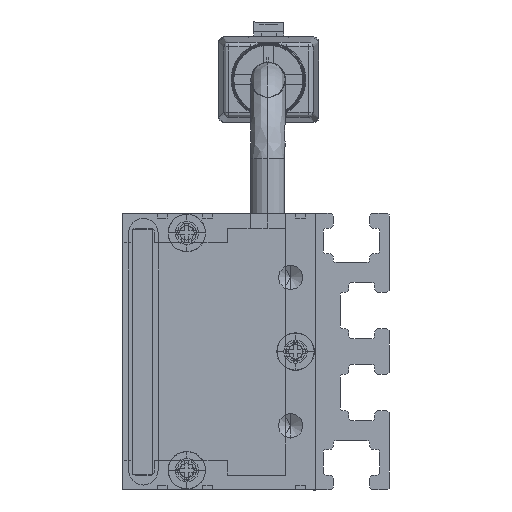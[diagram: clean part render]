
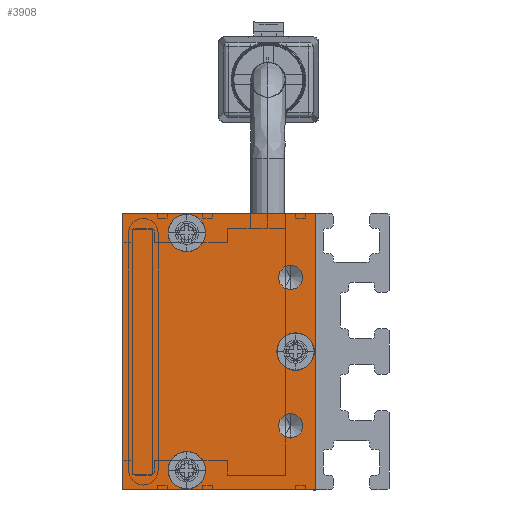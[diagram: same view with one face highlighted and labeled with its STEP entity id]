
A CAD part, left-side view. The second image highlights one B-rep face of the part: STEP entity #3908.
In plain terms, the highlighted planar face has unit normal (-1, 0, 0) as drawn and (0, 0, -1) by its records, which use the part's own axes.
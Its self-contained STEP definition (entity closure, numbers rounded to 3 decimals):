
#236 = CARTESIAN_POINT ( 'NONE',  ( 10.1, 13., -2.5 ) ) ;
#287 = EDGE_CURVE ( 'NONE', #5351, #8423, #5082, .T. ) ;
#292 = DIRECTION ( 'NONE',  ( -1., 0., 0. ) ) ;
#369 = DIRECTION ( 'NONE',  ( -1., 0., 0. ) ) ;
#371 = CARTESIAN_POINT ( 'NONE',  ( -14., 19.5, -2.5 ) ) ;
#372 = VERTEX_POINT ( 'NONE', #236 ) ;
#674 = CARTESIAN_POINT ( 'NONE',  ( -12., 13., -2.5 ) ) ;
#992 = EDGE_LOOP ( 'NONE', ( #2652, #8065, #5468, #11684 ) ) ;
#999 = ORIENTED_EDGE ( 'NONE', *, *, #3896, .F. ) ;
#1038 = CARTESIAN_POINT ( 'NONE',  ( 1.9, 2., -2.5 ) ) ;
#1267 = EDGE_CURVE ( 'NONE', #1521, #6336, #4370, .T. ) ;
#1311 = CIRCLE ( 'NONE', #9241, 1.9 ) ;
#1409 = DIRECTION ( 'NONE',  ( -1., 0., 0. ) ) ;
#1437 = DIRECTION ( 'NONE',  ( -1., 0., 0. ) ) ;
#1501 = ORIENTED_EDGE ( 'NONE', *, *, #287, .F. ) ;
#1521 = VERTEX_POINT ( 'NONE', #9481 ) ;
#1594 = EDGE_CURVE ( 'NONE', #1983, #1521, #1820, .T. ) ;
#1735 = VERTEX_POINT ( 'NONE', #4484 ) ;
#1820 = LINE ( 'NONE', #6405, #3300 ) ;
#1983 = VERTEX_POINT ( 'NONE', #3130 ) ;
#2358 = FACE_BOUND ( 'NONE', #12275, .T. ) ;
#2422 = AXIS2_PLACEMENT_3D ( 'NONE', #7986, #11247, #2884 ) ;
#2506 = CARTESIAN_POINT ( 'NONE',  ( 0., 2., -2.5 ) ) ;
#2652 = ORIENTED_EDGE ( 'NONE', *, *, #1267, .F. ) ;
#2817 = CIRCLE ( 'NONE', #7821, 1.25 ) ;
#2884 = DIRECTION ( 'NONE',  ( -1., 0., 0. ) ) ;
#2930 = VERTEX_POINT ( 'NONE', #9630 ) ;
#3130 = CARTESIAN_POINT ( 'NONE',  ( -14., 0., -2.5 ) ) ;
#3136 = ORIENTED_EDGE ( 'NONE', *, *, #8699, .F. ) ;
#3244 = CARTESIAN_POINT ( 'NONE',  ( 14., 19.5, -2.5 ) ) ;
#3300 = VECTOR ( 'NONE', #8398, 1000. ) ;
#3357 = ORIENTED_EDGE ( 'NONE', *, *, #7695, .F. ) ;
#3405 = EDGE_CURVE ( 'NONE', #2930, #13420, #11713, .T. ) ;
#3416 = FACE_BOUND ( 'NONE', #7117, .T. ) ;
#3445 = CARTESIAN_POINT ( 'NONE',  ( -1.9, 2., -2.5 ) ) ;
#3555 = CARTESIAN_POINT ( 'NONE',  ( 0., 0., -2.5 ) ) ;
#3589 = EDGE_LOOP ( 'NONE', ( #1501, #3136 ) ) ;
#3896 = EDGE_CURVE ( 'NONE', #11393, #8249, #1311, .T. ) ;
#3908 = ADVANCED_FACE ( 'NONE', ( #9095, #13417, #2358, #13277, #3416, #8028 ), #12350, .T. ) ;
#4064 = DIRECTION ( 'NONE',  ( -1., 0., 0. ) ) ;
#4127 = DIRECTION ( 'NONE',  ( 0., 0., -1. ) ) ;
#4370 = LINE ( 'NONE', #3244, #10558 ) ;
#4452 = LINE ( 'NONE', #5387, #7185 ) ;
#4484 = CARTESIAN_POINT ( 'NONE',  ( 6.25, 2.5, -2.5 ) ) ;
#4524 = ORIENTED_EDGE ( 'NONE', *, *, #7765, .F. ) ;
#4743 = CARTESIAN_POINT ( 'NONE',  ( -8.75, 2.5, -2.5 ) ) ;
#4799 = CIRCLE ( 'NONE', #9794, 1.25 ) ;
#4822 = DIRECTION ( 'NONE',  ( 0., 0., -1. ) ) ;
#5082 = CIRCLE ( 'NONE', #13012, 1.9 ) ;
#5351 = VERTEX_POINT ( 'NONE', #11957 ) ;
#5360 = ORIENTED_EDGE ( 'NONE', *, *, #3405, .F. ) ;
#5387 = CARTESIAN_POINT ( 'NONE',  ( -14., 19.5, -2.5 ) ) ;
#5468 = ORIENTED_EDGE ( 'NONE', *, *, #8238, .F. ) ;
#5793 = CARTESIAN_POINT ( 'NONE',  ( 12., 13., -2.5 ) ) ;
#5886 = CIRCLE ( 'NONE', #10727, 1.25 ) ;
#6336 = VERTEX_POINT ( 'NONE', #8477 ) ;
#6405 = CARTESIAN_POINT ( 'NONE',  ( 14., 0., -2.5 ) ) ;
#6460 = CIRCLE ( 'NONE', #9608, 1.9 ) ;
#6501 = ORIENTED_EDGE ( 'NONE', *, *, #8073, .F. ) ;
#6514 = AXIS2_PLACEMENT_3D ( 'NONE', #9088, #11209, #9156 ) ;
#6677 = CARTESIAN_POINT ( 'NONE',  ( 7.5, 2.5, -2.5 ) ) ;
#6999 = CARTESIAN_POINT ( 'NONE',  ( -7.5, 2.5, -2.5 ) ) ;
#7043 = CIRCLE ( 'NONE', #9533, 1.9 ) ;
#7117 = EDGE_LOOP ( 'NONE', ( #13955, #5360 ) ) ;
#7185 = VECTOR ( 'NONE', #9790, 1000. ) ;
#7262 = DIRECTION ( 'NONE',  ( -1., 0., 0. ) ) ;
#7348 = VECTOR ( 'NONE', #11326, 1000. ) ;
#7583 = DIRECTION ( 'NONE',  ( 0., 1., 0. ) ) ;
#7695 = EDGE_CURVE ( 'NONE', #7880, #1735, #5886, .T. ) ;
#7765 = EDGE_CURVE ( 'NONE', #1735, #7880, #2817, .T. ) ;
#7821 = AXIS2_PLACEMENT_3D ( 'NONE', #6677, #10017, #292 ) ;
#7880 = VERTEX_POINT ( 'NONE', #10374 ) ;
#7986 = CARTESIAN_POINT ( 'NONE',  ( -7.5, 2.5, -2.5 ) ) ;
#8028 = FACE_OUTER_BOUND ( 'NONE', #992, .T. ) ;
#8065 = ORIENTED_EDGE ( 'NONE', *, *, #1594, .F. ) ;
#8073 = EDGE_CURVE ( 'NONE', #8724, #372, #6460, .T. ) ;
#8238 = EDGE_CURVE ( 'NONE', #10053, #1983, #8840, .T. ) ;
#8249 = VERTEX_POINT ( 'NONE', #3445 ) ;
#8377 = ORIENTED_EDGE ( 'NONE', *, *, #10839, .F. ) ;
#8398 = DIRECTION ( 'NONE',  ( 1., 0., 0. ) ) ;
#8423 = VERTEX_POINT ( 'NONE', #9614 ) ;
#8477 = CARTESIAN_POINT ( 'NONE',  ( 14., 19.5, -2.5 ) ) ;
#8664 = EDGE_LOOP ( 'NONE', ( #8377, #6501 ) ) ;
#8699 = EDGE_CURVE ( 'NONE', #8423, #5351, #11876, .T. ) ;
#8724 = VERTEX_POINT ( 'NONE', #9389 ) ;
#8840 = LINE ( 'NONE', #13169, #7348 ) ;
#8946 = DIRECTION ( 'NONE',  ( 0., 0., -1. ) ) ;
#9088 = CARTESIAN_POINT ( 'NONE',  ( 0., 2., -2.5 ) ) ;
#9095 = FACE_BOUND ( 'NONE', #8664, .T. ) ;
#9156 = DIRECTION ( 'NONE',  ( -1., 0., 0. ) ) ;
#9177 = DIRECTION ( 'NONE',  ( 0., 0., -1. ) ) ;
#9241 = AXIS2_PLACEMENT_3D ( 'NONE', #2506, #8946, #369 ) ;
#9389 = CARTESIAN_POINT ( 'NONE',  ( 13.9, 13., -2.5 ) ) ;
#9481 = CARTESIAN_POINT ( 'NONE',  ( 14., 0., -2.5 ) ) ;
#9533 = AXIS2_PLACEMENT_3D ( 'NONE', #5793, #11183, #1409 ) ;
#9608 = AXIS2_PLACEMENT_3D ( 'NONE', #10642, #13909, #13106 ) ;
#9614 = CARTESIAN_POINT ( 'NONE',  ( -10.1, 13., -2.5 ) ) ;
#9630 = CARTESIAN_POINT ( 'NONE',  ( -6.25, 2.5, -2.5 ) ) ;
#9790 = DIRECTION ( 'NONE',  ( -1., 0., 0. ) ) ;
#9794 = AXIS2_PLACEMENT_3D ( 'NONE', #6999, #11317, #10399 ) ;
#9938 = EDGE_CURVE ( 'NONE', #13420, #2930, #4799, .T. ) ;
#10017 = DIRECTION ( 'NONE',  ( 0., 0., -1. ) ) ;
#10053 = VERTEX_POINT ( 'NONE', #371 ) ;
#10374 = CARTESIAN_POINT ( 'NONE',  ( 8.75, 2.5, -2.5 ) ) ;
#10399 = DIRECTION ( 'NONE',  ( -1., 0., 0. ) ) ;
#10558 = VECTOR ( 'NONE', #7583, 1000. ) ;
#10585 = AXIS2_PLACEMENT_3D ( 'NONE', #3555, #4822, #1437 ) ;
#10642 = CARTESIAN_POINT ( 'NONE',  ( 12., 13., -2.5 ) ) ;
#10727 = AXIS2_PLACEMENT_3D ( 'NONE', #13138, #13272, #12138 ) ;
#10812 = CIRCLE ( 'NONE', #6514, 1.9 ) ;
#10839 = EDGE_CURVE ( 'NONE', #372, #8724, #7043, .T. ) ;
#11183 = DIRECTION ( 'NONE',  ( 0., 0., -1. ) ) ;
#11209 = DIRECTION ( 'NONE',  ( 0., 0., -1. ) ) ;
#11247 = DIRECTION ( 'NONE',  ( 0., 0., -1. ) ) ;
#11317 = DIRECTION ( 'NONE',  ( 0., 0., -1. ) ) ;
#11326 = DIRECTION ( 'NONE',  ( 0., -1., 0. ) ) ;
#11393 = VERTEX_POINT ( 'NONE', #1038 ) ;
#11664 = CARTESIAN_POINT ( 'NONE',  ( -12., 13., -2.5 ) ) ;
#11684 = ORIENTED_EDGE ( 'NONE', *, *, #13790, .F. ) ;
#11713 = CIRCLE ( 'NONE', #2422, 1.25 ) ;
#11876 = CIRCLE ( 'NONE', #13009, 1.9 ) ;
#11957 = CARTESIAN_POINT ( 'NONE',  ( -13.9, 13., -2.5 ) ) ;
#12138 = DIRECTION ( 'NONE',  ( -1., 0., 0. ) ) ;
#12275 = EDGE_LOOP ( 'NONE', ( #13610, #999 ) ) ;
#12350 = PLANE ( 'NONE',  #10585 ) ;
#12500 = EDGE_LOOP ( 'NONE', ( #4524, #3357 ) ) ;
#13009 = AXIS2_PLACEMENT_3D ( 'NONE', #674, #9177, #7262 ) ;
#13012 = AXIS2_PLACEMENT_3D ( 'NONE', #11664, #4127, #4064 ) ;
#13106 = DIRECTION ( 'NONE',  ( -1., 0., 0. ) ) ;
#13119 = EDGE_CURVE ( 'NONE', #8249, #11393, #10812, .T. ) ;
#13138 = CARTESIAN_POINT ( 'NONE',  ( 7.5, 2.5, -2.5 ) ) ;
#13169 = CARTESIAN_POINT ( 'NONE',  ( -14., 0., -2.5 ) ) ;
#13272 = DIRECTION ( 'NONE',  ( 0., 0., -1. ) ) ;
#13277 = FACE_BOUND ( 'NONE', #12500, .T. ) ;
#13417 = FACE_BOUND ( 'NONE', #3589, .T. ) ;
#13420 = VERTEX_POINT ( 'NONE', #4743 ) ;
#13610 = ORIENTED_EDGE ( 'NONE', *, *, #13119, .F. ) ;
#13790 = EDGE_CURVE ( 'NONE', #6336, #10053, #4452, .T. ) ;
#13909 = DIRECTION ( 'NONE',  ( 0., 0., -1. ) ) ;
#13955 = ORIENTED_EDGE ( 'NONE', *, *, #9938, .F. ) ;
